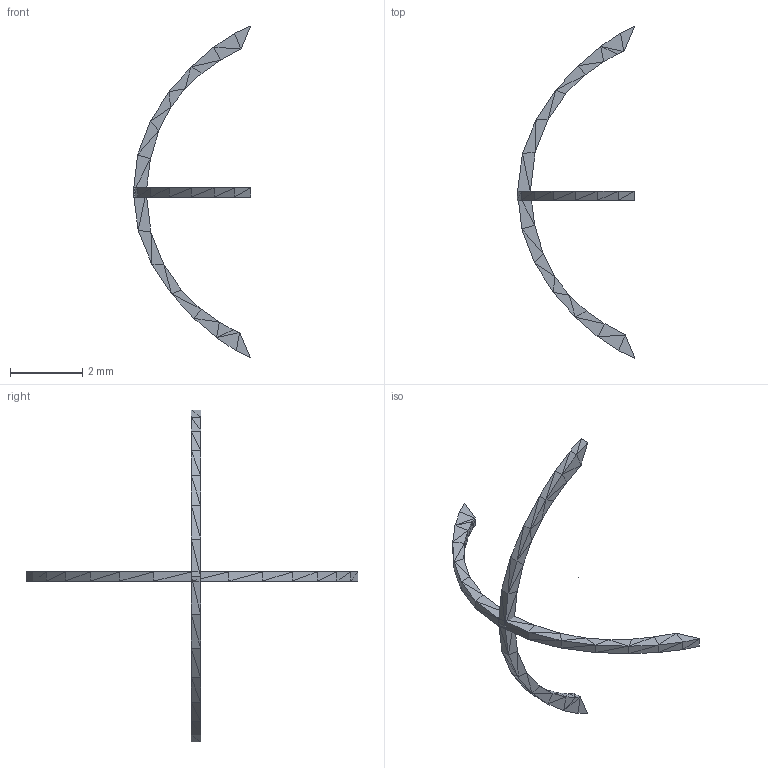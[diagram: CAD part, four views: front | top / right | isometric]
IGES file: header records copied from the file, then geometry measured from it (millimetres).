
Global section: file name: D:\work work Work\JO UNILAMP\RETINA\MMAXI RETINA-5-SH\MAXI RETINA-6\maxi retina-6.IGS; native system:  3D Studio VIZ R3.0 ; preprocessor: 34H 3D Studio VIZ Iges Exporter R3.0; author: No Author specified; organization: No Organization specified; units: inch
Bounding box: 3.24 x 9.16 x 9.16 mm (x, y, z)
Surface area: 26.7 mm2 (no closed solid volume)
Topology: 0 solids, 0 shells, 520 faces, 2008 edges, 1488 vertices
Faces by surface type: bspline 520
